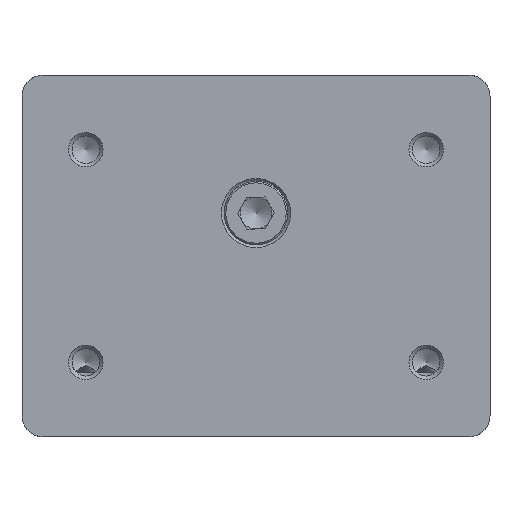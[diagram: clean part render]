
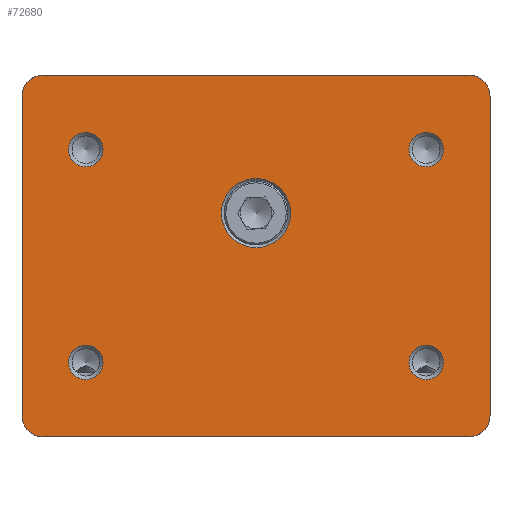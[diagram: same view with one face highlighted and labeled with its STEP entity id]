
A CAD part, front view. The second image highlights one B-rep face of the part: STEP entity #72680.
In plain terms, the highlighted planar face has unit normal (0, -1, 0).
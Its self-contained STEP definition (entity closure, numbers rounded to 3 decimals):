
#405=FACE_BOUND('',#24017,.T.);
#406=FACE_BOUND('',#24018,.T.);
#407=FACE_BOUND('',#24019,.T.);
#408=FACE_BOUND('',#24020,.T.);
#409=FACE_BOUND('',#24021,.T.);
#1022=PLANE('',#77351);
#5981=LINE('',#121026,#12545);
#5999=LINE('',#121267,#12563);
#6015=LINE('',#121300,#12579);
#6065=LINE('',#121433,#12629);
#12545=VECTOR('',#86362,1000.);
#12563=VECTOR('',#86382,1000.);
#12579=VECTOR('',#86400,1000.);
#12629=VECTOR('',#86486,1000.);
#19870=FACE_OUTER_BOUND('',#24016,.T.);
#24016=EDGE_LOOP('',(#52246,#52247,#52248,#52249,#52250,#52251,#52252,#52253));
#24017=EDGE_LOOP('',(#52254));
#24018=EDGE_LOOP('',(#52255));
#24019=EDGE_LOOP('',(#52256));
#24020=EDGE_LOOP('',(#52257));
#24021=EDGE_LOOP('',(#52258));
#28012=CIRCLE('',#77159,2.578);
#28015=CIRCLE('',#77165,2.578);
#28018=CIRCLE('',#77171,2.578);
#28022=CIRCLE('',#77179,2.578);
#28063=CIRCLE('',#77255,5.156);
#28123=CIRCLE('',#77352,3.175);
#28124=CIRCLE('',#77353,3.175);
#28125=CIRCLE('',#77354,3.175);
#28126=CIRCLE('',#77355,3.175);
#31413=VERTEX_POINT('',#120329);
#31417=VERTEX_POINT('',#120342);
#31421=VERTEX_POINT('',#120355);
#31429=VERTEX_POINT('',#120410);
#31489=VERTEX_POINT('',#120657);
#31546=VERTEX_POINT('',#121023);
#31547=VERTEX_POINT('',#121025);
#31575=VERTEX_POINT('',#121264);
#31576=VERTEX_POINT('',#121266);
#31591=VERTEX_POINT('',#121298);
#31592=VERTEX_POINT('',#121299);
#31656=VERTEX_POINT('',#121430);
#31657=VERTEX_POINT('',#121432);
#39032=EDGE_CURVE('',#31413,#31413,#28012,.T.);
#39038=EDGE_CURVE('',#31417,#31417,#28015,.T.);
#39044=EDGE_CURVE('',#31421,#31421,#28018,.T.);
#39055=EDGE_CURVE('',#31429,#31429,#28022,.T.);
#39140=EDGE_CURVE('',#31489,#31489,#28063,.T.);
#39230=EDGE_CURVE('',#31546,#31547,#5981,.T.);
#39259=EDGE_CURVE('',#31575,#31576,#5999,.T.);
#39275=EDGE_CURVE('',#31591,#31592,#6015,.T.);
#39341=EDGE_CURVE('',#31656,#31657,#6065,.T.);
#39351=EDGE_CURVE('',#31546,#31592,#28123,.T.);
#39352=EDGE_CURVE('',#31591,#31576,#28124,.T.);
#39353=EDGE_CURVE('',#31575,#31657,#28125,.T.);
#39354=EDGE_CURVE('',#31656,#31547,#28126,.T.);
#52246=ORIENTED_EDGE('',*,*,#39230,.F.);
#52247=ORIENTED_EDGE('',*,*,#39351,.T.);
#52248=ORIENTED_EDGE('',*,*,#39275,.F.);
#52249=ORIENTED_EDGE('',*,*,#39352,.T.);
#52250=ORIENTED_EDGE('',*,*,#39259,.F.);
#52251=ORIENTED_EDGE('',*,*,#39353,.T.);
#52252=ORIENTED_EDGE('',*,*,#39341,.F.);
#52253=ORIENTED_EDGE('',*,*,#39354,.T.);
#52254=ORIENTED_EDGE('',*,*,#39032,.F.);
#52255=ORIENTED_EDGE('',*,*,#39038,.F.);
#52256=ORIENTED_EDGE('',*,*,#39044,.F.);
#52257=ORIENTED_EDGE('',*,*,#39055,.F.);
#52258=ORIENTED_EDGE('',*,*,#39140,.F.);
#72680=ADVANCED_FACE('',(#19870,#405,#406,#407,#408,#409),#1022,.T.);
#77159=AXIS2_PLACEMENT_3D('',#120331,#85943,#85944);
#77165=AXIS2_PLACEMENT_3D('',#120344,#85958,#85959);
#77171=AXIS2_PLACEMENT_3D('',#120357,#85973,#85974);
#77179=AXIS2_PLACEMENT_3D('',#120412,#85992,#85993);
#77255=AXIS2_PLACEMENT_3D('',#120659,#86182,#86183);
#77351=AXIS2_PLACEMENT_3D('',#121451,#86502,#86503);
#77352=AXIS2_PLACEMENT_3D('',#121452,#86504,#86505);
#77353=AXIS2_PLACEMENT_3D('',#121453,#86506,#86507);
#77354=AXIS2_PLACEMENT_3D('',#121454,#86508,#86509);
#77355=AXIS2_PLACEMENT_3D('',#121455,#86510,#86511);
#85943=DIRECTION('center_axis',(0.,-1.,0.));
#85944=DIRECTION('ref_axis',(0.,0.,-1.));
#85958=DIRECTION('center_axis',(0.,-1.,0.));
#85959=DIRECTION('ref_axis',(0.,0.,-1.));
#85973=DIRECTION('center_axis',(0.,-1.,0.));
#85974=DIRECTION('ref_axis',(0.,0.,-1.));
#85992=DIRECTION('center_axis',(0.,-1.,0.));
#85993=DIRECTION('ref_axis',(0.,0.,-1.));
#86182=DIRECTION('center_axis',(0.,-1.,0.));
#86183=DIRECTION('ref_axis',(0.,0.,-1.));
#86362=DIRECTION('',(0.,0.,-1.));
#86382=DIRECTION('',(0.,0.,1.));
#86400=DIRECTION('',(1.,0.,0.));
#86486=DIRECTION('',(-1.,0.,0.));
#86502=DIRECTION('center_axis',(0.,-1.,0.));
#86503=DIRECTION('ref_axis',(0.,0.,-1.));
#86504=DIRECTION('center_axis',(0.,-1.,0.));
#86505=DIRECTION('ref_axis',(0.,0.,-1.));
#86506=DIRECTION('center_axis',(0.,-1.,0.));
#86507=DIRECTION('ref_axis',(0.,0.,-1.));
#86508=DIRECTION('center_axis',(0.,-1.,0.));
#86509=DIRECTION('ref_axis',(0.,0.,-1.));
#86510=DIRECTION('center_axis',(0.,-1.,0.));
#86511=DIRECTION('ref_axis',(0.,0.,-1.));
#120329=CARTESIAN_POINT('',(-25.121,-36.424,19.431));
#120331=CARTESIAN_POINT('Origin',(-25.121,-36.424,16.853));
#120342=CARTESIAN_POINT('',(25.679,-36.424,19.431));
#120344=CARTESIAN_POINT('Origin',(25.679,-36.424,16.853));
#120355=CARTESIAN_POINT('',(25.679,-36.424,-12.319));
#120357=CARTESIAN_POINT('Origin',(25.679,-36.424,-14.897));
#120410=CARTESIAN_POINT('',(-25.121,-36.424,-12.319));
#120412=CARTESIAN_POINT('Origin',(-25.121,-36.424,-14.897));
#120657=CARTESIAN_POINT('',(0.279,-36.424,12.548));
#120659=CARTESIAN_POINT('Origin',(0.279,-36.424,7.391));
#121023=CARTESIAN_POINT('',(35.204,-36.424,24.79));
#121025=CARTESIAN_POINT('',(35.204,-36.424,-22.835));
#121026=CARTESIAN_POINT('',(35.204,-36.424,27.965));
#121264=CARTESIAN_POINT('',(-34.646,-36.424,-22.835));
#121266=CARTESIAN_POINT('',(-34.646,-36.424,24.79));
#121267=CARTESIAN_POINT('',(-34.646,-36.424,27.965));
#121298=CARTESIAN_POINT('',(-31.471,-36.424,27.965));
#121299=CARTESIAN_POINT('',(32.029,-36.424,27.965));
#121300=CARTESIAN_POINT('',(-34.646,-36.424,27.965));
#121430=CARTESIAN_POINT('',(32.029,-36.424,-26.01));
#121432=CARTESIAN_POINT('',(-31.471,-36.424,-26.01));
#121433=CARTESIAN_POINT('',(-34.646,-36.424,-26.01));
#121451=CARTESIAN_POINT('Origin',(-34.646,-36.424,27.965));
#121452=CARTESIAN_POINT('Origin',(32.029,-36.424,24.79));
#121453=CARTESIAN_POINT('Origin',(-31.471,-36.424,24.79));
#121454=CARTESIAN_POINT('Origin',(-31.471,-36.424,-22.835));
#121455=CARTESIAN_POINT('Origin',(32.029,-36.424,-22.835));
